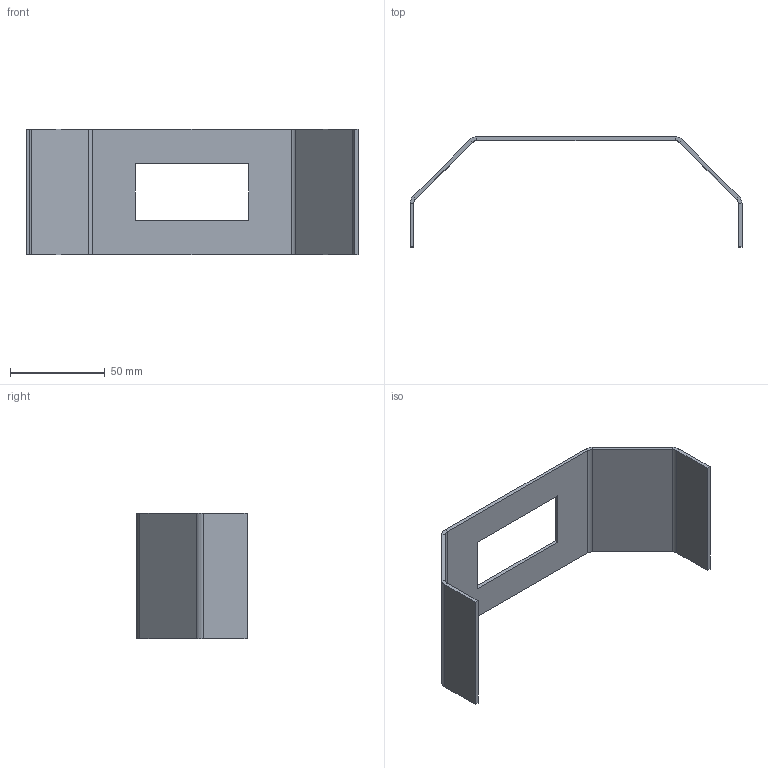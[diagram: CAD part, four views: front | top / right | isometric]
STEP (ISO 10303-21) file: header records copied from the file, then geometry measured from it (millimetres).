
FILE_DESCRIPTION (( 'STEP AP203' ), '1' );
FILE_NAME ('Corps sabot rep 6.3candidat.STEP', '2015-09-03T09:10:43', ( '' ), ( '' ), 'SwSTEP 2.0', 'SolidWorks 2014', '' );
FILE_SCHEMA (( 'CONFIG_CONTROL_DESIGN' ));
Length unit declared in the file: millimetre
Products named in the file (1): Corps sabot rep 6.3candidat
Bounding box: 175 x 58 x 66 mm (x, y, z)
Volume: 29175.8 mm3; surface area: 30793 mm2
Topology: 1 solids, 1 shells, 42 faces, 88 edges, 48 vertices
Faces by surface type: plane 34, cylinder 8
Entity records: 1153 total; most frequent: DIRECTION 190, CARTESIAN_POINT 179, ORIENTED_EDGE 176, EDGE_CURVE 88, LINE 72, VECTOR 72, AXIS2_PLACEMENT_3D 59, VERTEX_POINT 48
